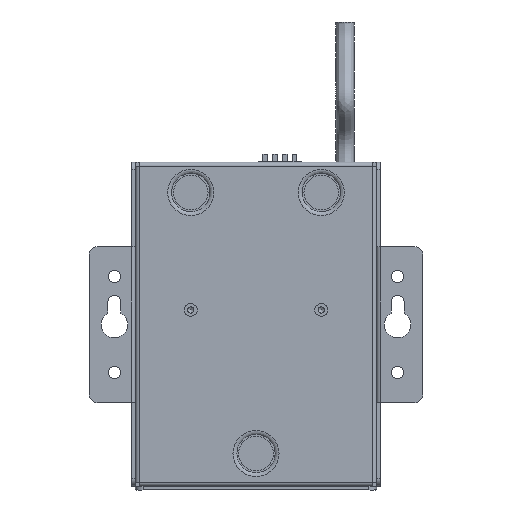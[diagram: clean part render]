
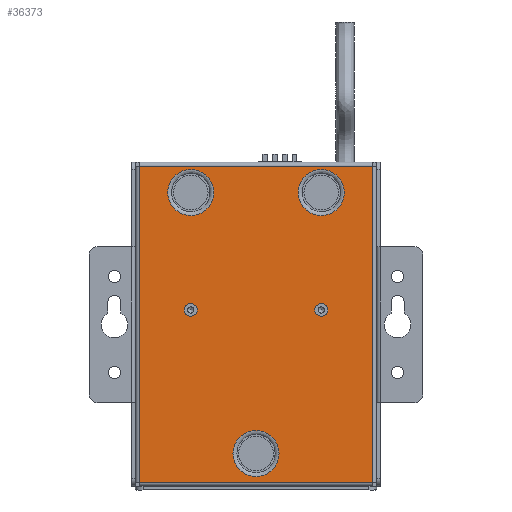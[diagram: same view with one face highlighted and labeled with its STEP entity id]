
A CAD part, front view. The second image highlights one B-rep face of the part: STEP entity #36373.
In plain terms, the highlighted planar face has unit normal (0, -1, 0).
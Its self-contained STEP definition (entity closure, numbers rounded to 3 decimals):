
#1515=PLANE('',#39281);
#4451=LINE('',#60293,#8066);
#4458=LINE('',#60315,#8073);
#4469=LINE('',#60345,#8084);
#4472=LINE('',#60355,#8087);
#8066=VECTOR('',#47090,10.);
#8073=VECTOR('',#47117,10.);
#8084=VECTOR('',#47158,10.);
#8087=VECTOR('',#47175,10.);
#9843=FACE_BOUND('',#13412,.T.);
#9844=FACE_BOUND('',#13413,.T.);
#9845=FACE_BOUND('',#13414,.T.);
#9846=FACE_BOUND('',#13415,.T.);
#9847=FACE_BOUND('',#13416,.T.);
#11269=FACE_OUTER_BOUND('',#13411,.T.);
#13411=EDGE_LOOP('',(#31121,#31122,#31123,#31124));
#13412=EDGE_LOOP('',(#31125));
#13413=EDGE_LOOP('',(#31126));
#13414=EDGE_LOOP('',(#31127));
#13415=EDGE_LOOP('',(#31128));
#13416=EDGE_LOOP('',(#31129));
#15053=CIRCLE('',#39175,6.);
#15056=CIRCLE('',#39180,6.);
#15059=CIRCLE('',#39185,6.);
#15060=CIRCLE('',#39188,1.666);
#15062=CIRCLE('',#39191,1.666);
#17695=VERTEX_POINT('',#60121);
#17697=VERTEX_POINT('',#60128);
#17699=VERTEX_POINT('',#60135);
#17700=VERTEX_POINT('',#60140);
#17702=VERTEX_POINT('',#60146);
#17733=VERTEX_POINT('',#60290);
#17734=VERTEX_POINT('',#60292);
#17738=VERTEX_POINT('',#60312);
#17739=VERTEX_POINT('',#60314);
#22345=EDGE_CURVE('',#17695,#17695,#15053,.T.);
#22348=EDGE_CURVE('',#17697,#17697,#15056,.T.);
#22351=EDGE_CURVE('',#17699,#17699,#15059,.T.);
#22352=EDGE_CURVE('',#17700,#17700,#15060,.T.);
#22355=EDGE_CURVE('',#17702,#17702,#15062,.T.);
#22430=EDGE_CURVE('',#17734,#17733,#4451,.T.);
#22441=EDGE_CURVE('',#17739,#17738,#4458,.T.);
#22459=EDGE_CURVE('',#17738,#17734,#4469,.T.);
#22465=EDGE_CURVE('',#17733,#17739,#4472,.T.);
#31121=ORIENTED_EDGE('',*,*,#22430,.T.);
#31122=ORIENTED_EDGE('',*,*,#22465,.T.);
#31123=ORIENTED_EDGE('',*,*,#22441,.T.);
#31124=ORIENTED_EDGE('',*,*,#22459,.T.);
#31125=ORIENTED_EDGE('',*,*,#22345,.T.);
#31126=ORIENTED_EDGE('',*,*,#22348,.T.);
#31127=ORIENTED_EDGE('',*,*,#22351,.T.);
#31128=ORIENTED_EDGE('',*,*,#22352,.T.);
#31129=ORIENTED_EDGE('',*,*,#22355,.T.);
#36373=ADVANCED_FACE('',(#11269,#9843,#9844,#9845,#9846,#9847),#1515,.F.);
#39175=AXIS2_PLACEMENT_3D('',#60123,#46897,#46898);
#39180=AXIS2_PLACEMENT_3D('',#60130,#46907,#46908);
#39185=AXIS2_PLACEMENT_3D('',#60137,#46917,#46918);
#39188=AXIS2_PLACEMENT_3D('',#60141,#46923,#46924);
#39191=AXIS2_PLACEMENT_3D('',#60147,#46930,#46931);
#39281=AXIS2_PLACEMENT_3D('',#60375,#47205,#47206);
#46897=DIRECTION('center_axis',(0.,1.,0.));
#46898=DIRECTION('ref_axis',(0.,0.,1.));
#46907=DIRECTION('center_axis',(0.,1.,0.));
#46908=DIRECTION('ref_axis',(0.,0.,1.));
#46917=DIRECTION('center_axis',(0.,1.,0.));
#46918=DIRECTION('ref_axis',(0.,0.,1.));
#46923=DIRECTION('center_axis',(0.,1.,0.));
#46924=DIRECTION('ref_axis',(0.,0.,-1.));
#46930=DIRECTION('center_axis',(0.,1.,0.));
#46931=DIRECTION('ref_axis',(0.,0.,-1.));
#47090=DIRECTION('',(0.,0.,1.));
#47117=DIRECTION('',(0.,0.,-1.));
#47158=DIRECTION('',(1.,0.,0.));
#47175=DIRECTION('',(-1.,0.,0.));
#47205=DIRECTION('center_axis',(0.,1.,0.));
#47206=DIRECTION('ref_axis',(1.,0.,0.));
#60121=CARTESIAN_POINT('',(11.5,-5.51,-12.21));
#60123=CARTESIAN_POINT('Origin',(11.5,-5.51,-6.21));
#60128=CARTESIAN_POINT('',(45.5,-5.51,-12.21));
#60130=CARTESIAN_POINT('Origin',(45.5,-5.51,-6.21));
#60135=CARTESIAN_POINT('',(28.5,-5.51,-80.21));
#60137=CARTESIAN_POINT('Origin',(28.5,-5.51,-74.21));
#60140=CARTESIAN_POINT('',(45.5,-5.51,-35.134));
#60141=CARTESIAN_POINT('Origin',(45.5,-5.51,-36.8));
#60146=CARTESIAN_POINT('',(11.5,-5.51,-35.134));
#60147=CARTESIAN_POINT('Origin',(11.5,-5.51,-36.8));
#60290=CARTESIAN_POINT('',(58.89,-5.51,0.69));
#60292=CARTESIAN_POINT('',(58.89,-5.51,-81.69));
#60293=CARTESIAN_POINT('',(58.89,-5.51,-19.905));
#60312=CARTESIAN_POINT('',(-1.89,-5.51,-81.69));
#60314=CARTESIAN_POINT('',(-1.89,-5.51,0.69));
#60315=CARTESIAN_POINT('',(-1.89,-5.51,-61.095));
#60345=CARTESIAN_POINT('',(44.2,-5.51,-81.69));
#60355=CARTESIAN_POINT('',(12.8,-5.51,0.69));
#60375=CARTESIAN_POINT('Origin',(28.5,-5.51,-40.5));
